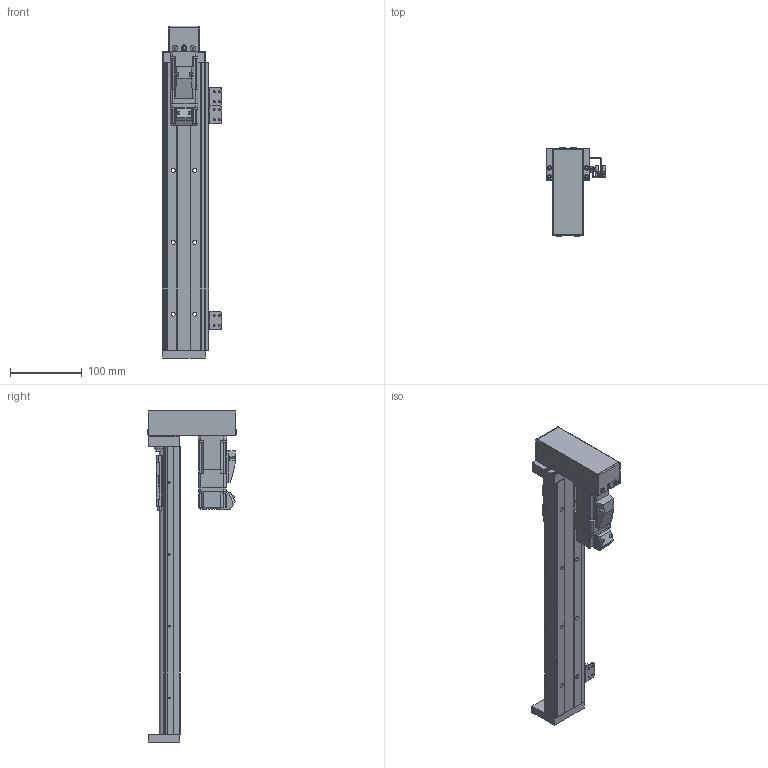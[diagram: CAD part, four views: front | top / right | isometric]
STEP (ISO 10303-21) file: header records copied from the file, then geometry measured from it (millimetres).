
FILE_DESCRIPTION (( 'STEP AP203' ), '1' );
FILE_NAME ('KH60D10C-400A1-H2MS1.STEP', '2022-06-08T07:48:07', ( 'CXY' ), ( 'BT' ), 'SwSTEP 2.0', 'SolidWorks 2016', '' );
FILE_SCHEMA (( 'CONFIG_CONTROL_DESIGN' ));
Length unit declared in the file: millimetre
Products named in the file (22): 鞠褒蹟譫M3; KK60-02-01-H0_KK60-02-01-H0&H1; 綴釱; 囀鞠褒す埴芛蹟隊M3℅5; KH60-02-0000; B-KK60-A1-F0C; KH60D10C-400A1-H2MS1; PM-Y65; KH60-500; 晦埴芛M3X6蹟隊; KK60-02-02; KK60-08-01; KK60-04-07G; KK60-02-03; 内六角圆柱头螺钉M3×18; 216々湍; KK60-02-04; 錨璃2; KK60-01-02-XXXX_KK60-01-02-150; 内六角圆柱头螺钉M3×10; KH86-08-SX674; 侂狟萇儂P10B
Assembly tree (36 placements, depth 3):
  KH60D10C-400A1-H2MS1
    KH60-500
    B-KK60-A1-F0C
      錨璃2
    綴釱
    KH86-08-SX674  x3
      KK60-08-01
      囀鞠褒す埴芛蹟隊M3℅5
      鞠褒蹟譫M3
    KK60-01-02-XXXX_KK60-01-02-150
    KH60-02-0000
      KK60-02-01-H0_KK60-02-01-H0&H1
      KK60-02-02
      KK60-02-03
      内六角圆柱头螺钉M3×18  x4
      侂狟萇儂P10B
      KK60-02-04
      216々湍
      内六角圆柱头螺钉M3×10  x4
      晦埴芛M3X6蹟隊  x4
    KK60-04-07G
    PM-Y65  x3
Bounding box: 82.4 x 123.6 x 462 mm (x, y, z)
Volume: 661697.8 mm3; surface area: 233520.4 mm2
Topology: 42 solids, 42 shells, 2518 faces, 6574 edges, 4235 vertices
Faces by surface type: plane 1335, cylinder 576, bspline 280, cone 253, torus 62, sphere 12
Entity records: 62102 total; most frequent: CARTESIAN_POINT 15236, ORIENTED_EDGE 9626, DIRECTION 8324, EDGE_CURVE 4813, VERTEX_POINT 3162, VECTOR 3072, LINE 3072, AXIS2_PLACEMENT_3D 2626
